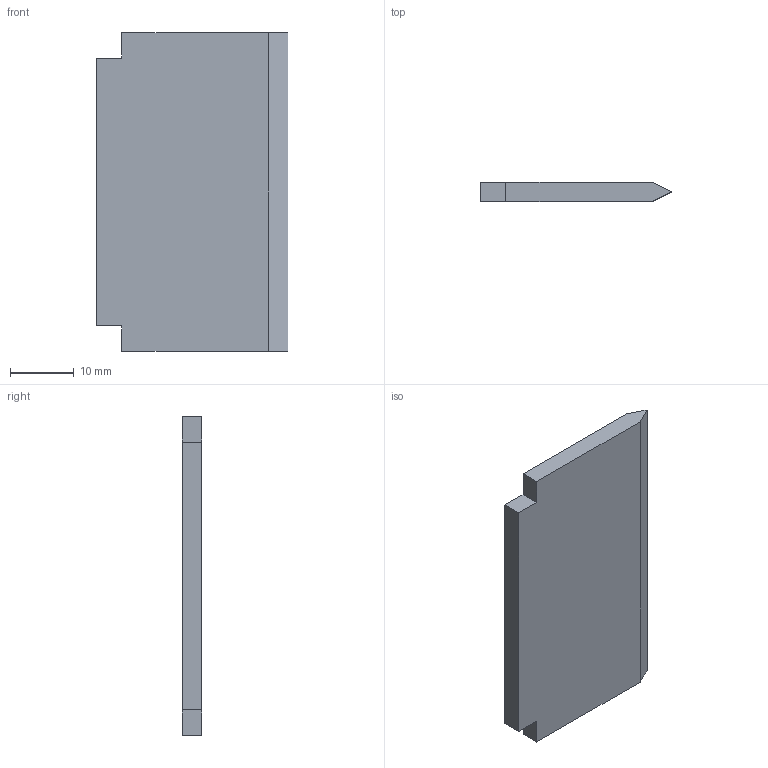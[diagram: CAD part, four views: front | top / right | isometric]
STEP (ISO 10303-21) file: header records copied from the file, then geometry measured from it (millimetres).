
FILE_DESCRIPTION(('STEP AP214'),'1');
FILE_NAME('tmp0.step','2025-04-14T19:54:49',(' '),(' '),'Spatial InterOp 3D',' ',' ');
FILE_SCHEMA(('AUTOMOTIVE_DESIGN { 1 0 10303 214 1 1 1 1 }'));
Length unit declared in the file: millimetre
Products named in the file (1): 1
Bounding box: 30 x 3 x 50 mm (x, y, z)
Volume: 4180.7 mm3; surface area: 3292.6 mm2
Topology: 1 solids, 1 shells, 11 faces, 27 edges, 18 vertices
Faces by surface type: plane 11
Entity records: 346 total; most frequent: CARTESIAN_POINT 57, ORIENTED_EDGE 54, DIRECTION 51, EDGE_CURVE 27, LINE 27, VECTOR 27, VERTEX_POINT 18, AXIS2_PLACEMENT_3D 12
